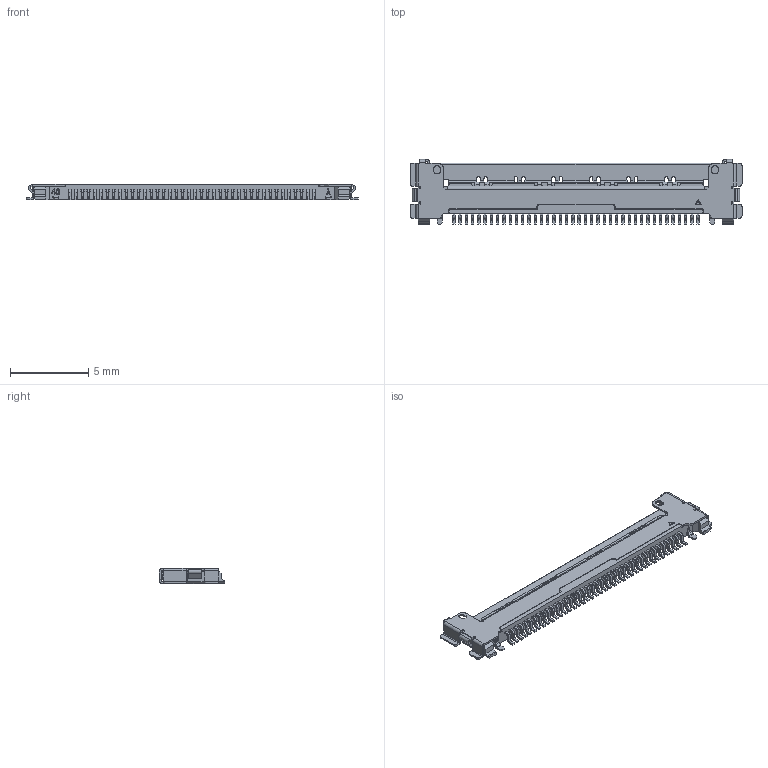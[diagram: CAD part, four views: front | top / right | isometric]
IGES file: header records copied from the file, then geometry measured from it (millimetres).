
Start section: SolidWorks IGES file using analytic representation for surfaces
Global section: file name: C:\3dworks\kurachi\新しいフォルダ\IGES\20525-x40E-02C RECE ASS'Y IGES R7 ALL.IGS; native system: SolidWorks 2011; preprocessor: SolidWorks 2011; author: kaihatsu-3dcad-12; date: 130703.163127; units: millimetre
Bounding box: 21.2 x 4.15 x 1 mm (x, y, z)
Surface area: 251.4 mm2 (no closed solid volume)
Topology: 0 solids, 0 shells, 1493 faces, 10516 edges, 10516 vertices
Faces by surface type: bspline 999, revolution 494
